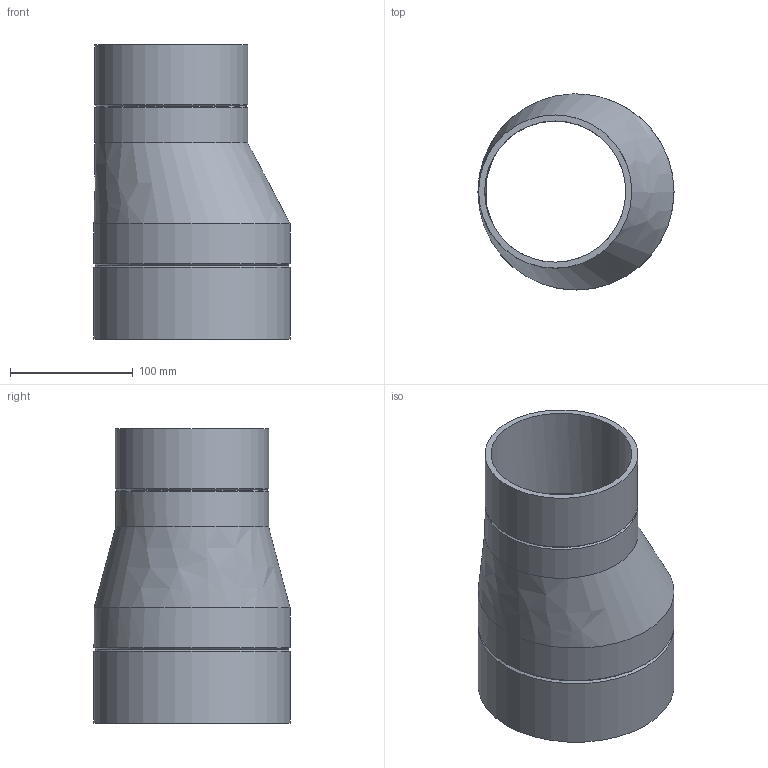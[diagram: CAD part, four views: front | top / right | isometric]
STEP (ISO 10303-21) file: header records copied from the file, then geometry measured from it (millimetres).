
FILE_DESCRIPTION(/* description */ (''),/* implementation_level */ '2;1');
FILE_NAME(/* name */ 'Z:\Geberit\Export\NewStep\369587.stp',/* time_stamp */ '2014-04-02T08:02:58+02:00',/* author */ ('nelson'),/* organization */ (''),/* preprocessor_version */ 'ST-DEVELOPER v15.2',/* originating_system */ 'Autodesk Inventor 2014',/* authorisation */ '');
FILE_SCHEMA (('AUTOMOTIVE_DESIGN { 1 0 10303 214 3 1 1 }'));
Length unit declared in the file: millimetre
Products named in the file (1): 369587
Bounding box: 160 x 160 x 240 mm (x, y, z)
Volume: 585999.1 mm3; surface area: 216556.4 mm2
Topology: 1 solids, 1 shells, 14 faces, 38 edges, 26 vertices
Faces by surface type: cylinder 6, cone 4, bspline 2, plane 2
Full cylindrical faces by diameter (mm): 115.2 x1, 125 x2, 147.6 x1, 160 x2
Entity records: 417 total; most frequent: CARTESIAN_POINT 93, DIRECTION 66, ORIENTED_EDGE 44, AXIS2_PLACEMENT_3D 33, EDGE_LOOP 26, EDGE_CURVE 22, CIRCLE 20, VERTEX_POINT 20
